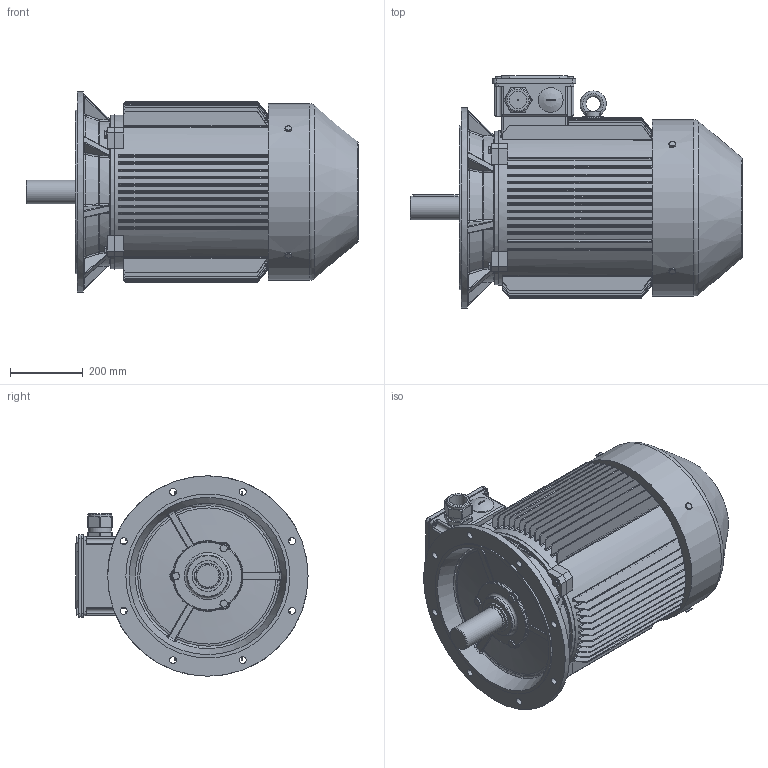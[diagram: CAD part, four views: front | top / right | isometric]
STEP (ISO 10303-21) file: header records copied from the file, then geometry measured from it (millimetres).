
FILE_DESCRIPTION((''),'2;1');
FILE_NAME('U:\Inventor 2012\121 - OMEC MOTORS\1408 - MOTOREN CAD BIBLIOTHEEK\1408 - Gereed\Step files\Step zonder Omec logo\250\OMT1-250M B5 - 6 Pole IE3.stp','2015-02-06T13:00:46',('Freek'),(''),'Autodesk Inventor 2012','Autodesk Inventor 2012','');
FILE_SCHEMA(('AUTOMOTIVE_DESIGN { 1 0 10303 214 1 1 1 1 }'));
Length unit declared in the file: millimetre
Products named in the file (1): 1408-192
Bounding box: 911.1 x 637.1 x 550 mm (x, y, z)
Volume: 116918893.7 mm3; surface area: 3718313.7 mm2
Topology: 5 solids, 23 shells, 2600 faces, 6316 edges, 4074 vertices
Faces by surface type: plane 1821, cylinder 386, cone 223, bspline 130, torus 40
Full cylindrical faces by diameter (mm): 1 x2, 8 x1, 9.188 x4, 10 x12, 11.053 x4, 11.459 x3, 12 x17, 15.4 x8, 17.2 x7, 19 x8, 48 x1, 60 x1, 63 x1, 65 x1, 66 x1, 68 x1, 70 x1, 85 x1, 85.2 x1, 115 x1, 250 x1, 422 x1, 450 x1, 484 x1, 550 x1
Entity records: 84908 total; most frequent: CARTESIAN_POINT 23323, ORIENTED_EDGE 12362, DIRECTION 11337, EDGE_CURVE 6181, VECTOR 4223, LINE 4223, VERTEX_POINT 4042, AXIS2_PLACEMENT_3D 3557
